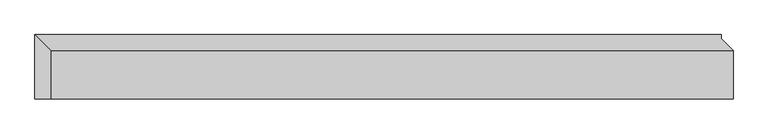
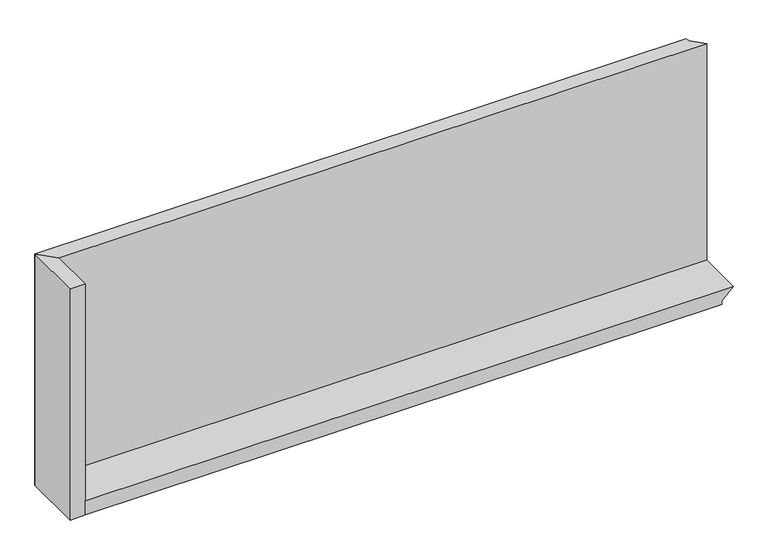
"""IFC4 building model written with IfcOpenShell, lengths in millimetres: proxy geometry, AERO^OFFICE 4_24x64 BRIDGE LT-PARTS SOLID."""

from ifc_helpers import new_model, si_unit, frame, origin, place, context, project, spatial, polyline, outline, extrude, faceted_brep, source, transform, mapped, element, save


def generic_models_7eac79f3(model_context):
    return source(origin(), model_context, "Body", "SolidModel", [
        extrude(outline(polyline([(-609.6, 1625.6), (-600.075, 1625.6), (-571.5, 1654.175), (-571.5, 38.1), (-609.6, 38.1), (-609.6, 1625.6)])), frame((0.0, -114.3, 0.0), z_axis=(0.0, 1.0, 0.0), x_axis=(0.0, 0.0, 1.0)), (0.0, 0.0, 1.0), 114.3),
        extrude(outline(polyline([(0.0, 38.1), (38.1, 0.0), (38.1, -114.3), (0.0, -114.3), (0.0, 38.1)])), frame((0.0, 0.0, -609.6), z_axis=(0.0, 0.0, 1.0), x_axis=(1.0, 0.0, 0.0)), (0.0, 0.0, 1.0), 609.6),
        faceted_brep([(38.1, 0.0, 0.0), (38.1, 0.0, -609.6), (1625.6, 0.0, -609.6), (1625.6, 0.0, -600.075), (1654.175, 0.0, -571.5), (1654.175, 0.0, 0.0), (1625.6, 28.575, -600.075), (1625.6, 28.575, 0.0), (1625.6, 38.1, -609.6), (1625.6, 38.1, 0.0), (0.0, 38.1, 0.0), (0.0, 38.1, -609.6)], [[[0, 1, 2, 3, 4, 5]], [[5, 4, 6, 7]], [[4, 3, 6]], [[8, 9, 7, 6, 3, 2]], [[7, 9, 10, 0, 5]], [[9, 8, 11, 10]], [[1, 0, 10, 11]], [[8, 2, 1, 11]]]),
    ])


if __name__ == "__main__":
    model = new_model("IFC4")
    model_context = context("Model", 3, world=origin())
    ifc_project = project(units=[si_unit("LENGTHUNIT", "METRE", prefix="MILLI")], contexts=[model_context])
    site = spatial("IfcSite", under=ifc_project)
    building = spatial("IfcBuilding", under=site)
    placement = place(None, origin())
    generic_models_shape = generic_models_7eac79f3(model_context)
    element("IfcBuildingElementProxy", 1, Name="AERO^OFFICE 4_24x64 BRIDGE LT-PARTS SOLID", ObjectType="AERO^OFFICE 4_24x64 BRIDGE LT-PARTS SOLID", at=placement, inside=building, context=model_context, shape_type="MappedRepresentation", body=[
        mapped(generic_models_shape, transform((0.0, 0.0, 0.0), x_axis=(1.0, 0.0, 0.0), y_axis=(0.0, 1.0, 0.0), z_axis=(0.0, 0.0, 1.0))),
    ])
    save(model, "model.ifc")
